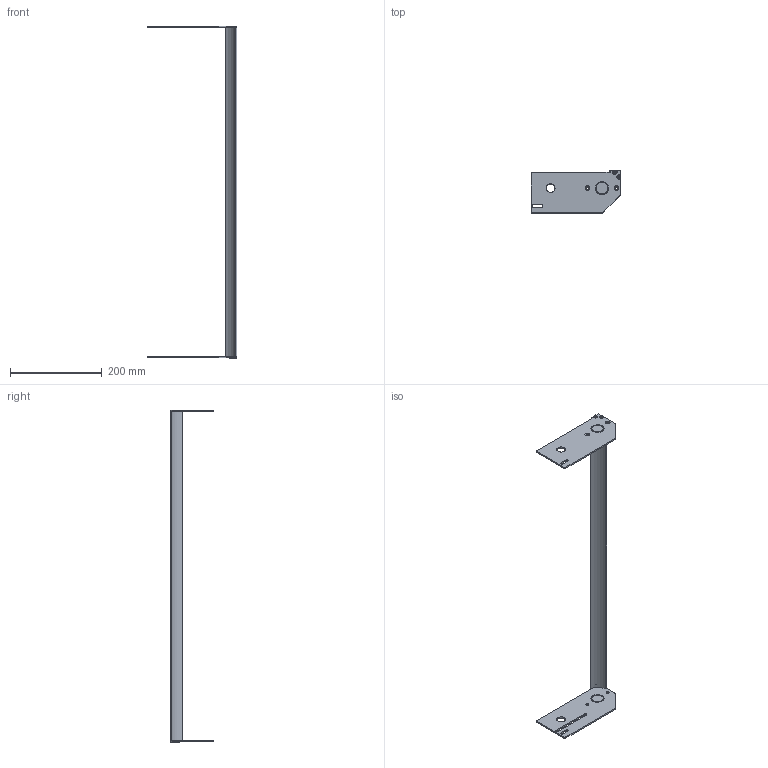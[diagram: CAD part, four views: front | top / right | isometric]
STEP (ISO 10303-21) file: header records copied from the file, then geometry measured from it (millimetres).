
FILE_DESCRIPTION((''),'2;1');
FILE_NAME('27M3301-20_ASM','2019-12-04T',('james.horst'),(''),'PRO/ENGINEER BY PARAMETRIC TECHNOLOGY CORPORATION, 2012420','PRO/ENGINEER BY PARAMETRIC TECHNOLOGY CORPORATION, 2012420','');
FILE_SCHEMA(('CONFIG_CONTROL_DESIGN'));
Length unit declared in the file: inch
Products named in the file (6): 350537_1_1_1; 930410M_1_1; 350538_1_1_1; 27M3300-20_ASM_1_ASM; 350539-28; 27M3301-20_ASM
Assembly tree (8 placements, depth 3):
  27M3301-20_ASM
    27M3300-20_ASM_1_ASM
      350537_1_1_1
      930410M_1_1  x4
      350538_1_1_1
    350539-28
Bounding box: 196.06 x 92.74 x 723.54 mm (x, y, z)
Volume: 301885.1 mm3; surface area: 149618.8 mm2
Topology: 7 solids, 11 shells, 199 faces, 529 edges, 348 vertices
Faces by surface type: cylinder 87, plane 80, cone 32
Entity records: 5161 total; most frequent: DIRECTION 939, CARTESIAN_POINT 893, ORIENTED_EDGE 814, EDGE_CURVE 415, AXIS2_PLACEMENT_3D 360, VERTEX_POINT 276, VECTOR 219, LINE 219
